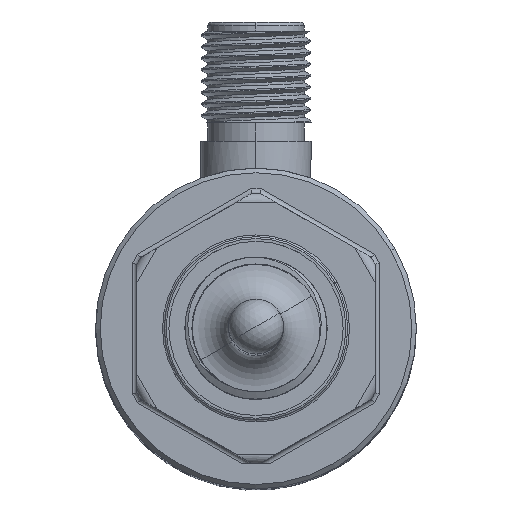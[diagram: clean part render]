
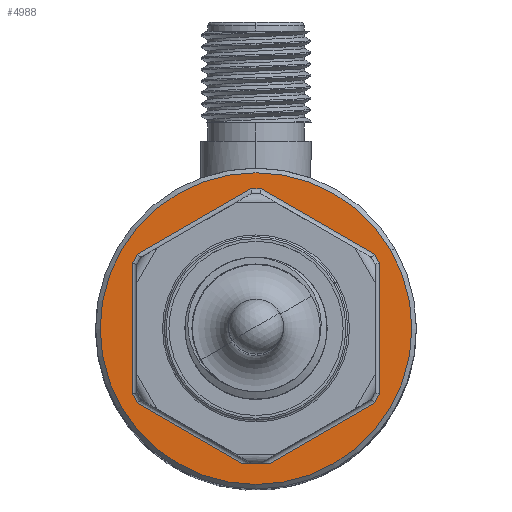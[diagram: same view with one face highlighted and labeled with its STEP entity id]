
A CAD part, top view. The second image highlights one B-rep face of the part: STEP entity #4988.
In plain terms, the highlighted planar face has unit normal (0, 0, 1).
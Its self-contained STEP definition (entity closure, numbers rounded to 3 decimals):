
#114 = EDGE_CURVE ( 'NONE', #8334, #10605, #6618, .T. ) ;
#177 = VERTEX_POINT ( 'NONE', #7463 ) ;
#516 = VERTEX_POINT ( 'NONE', #6600 ) ;
#537 = CARTESIAN_POINT ( 'NONE',  ( 17., 0., 0.5 ) ) ;
#579 = EDGE_CURVE ( 'NONE', #9447, #177, #8510, .T. ) ;
#586 = CARTESIAN_POINT ( 'NONE',  ( 6.134, 13.49, 0.5 ) ) ;
#936 = ORIENTED_EDGE ( 'NONE', *, *, #3543, .T. ) ;
#1044 = VECTOR ( 'NONE', #9015, 1000. ) ;
#1105 = CARTESIAN_POINT ( 'NONE',  ( 0., -13.49, 0.5 ) ) ;
#1208 = DIRECTION ( 'NONE',  ( 1., 0., 0. ) ) ;
#1280 = LINE ( 'NONE', #6848, #11783 ) ;
#1370 = ORIENTED_EDGE ( 'NONE', *, *, #3101, .T. ) ;
#1416 = CARTESIAN_POINT ( 'NONE',  ( -7.625, -13.207, 0.5 ) ) ;
#1447 = DIRECTION ( 'NONE',  ( 1., 0., 0. ) ) ;
#1570 = CARTESIAN_POINT ( 'NONE',  ( -8.116, 12.923, 0.5 ) ) ;
#1617 = VERTEX_POINT ( 'NONE', #9722 ) ;
#1702 = VECTOR ( 'NONE', #9366, 1000. ) ;
#1708 = LINE ( 'NONE', #6090, #1044 ) ;
#1777 = LINE ( 'NONE', #5438, #7381 ) ;
#1812 = CARTESIAN_POINT ( 'NONE',  ( -8.116, -12.923, 0.5 ) ) ;
#1955 = DIRECTION ( 'NONE',  ( -0.866, 0.5, 0. ) ) ;
#2046 = AXIS2_PLACEMENT_3D ( 'NONE', #11305, #3118, #1208 ) ;
#2062 = DIRECTION ( 'NONE',  ( -0.5, 0.866, 0. ) ) ;
#2266 = VECTOR ( 'NONE', #6379, 1000. ) ;
#2275 = CARTESIAN_POINT ( 'NONE',  ( -7.625, 13.207, 0.5 ) ) ;
#2357 = VECTOR ( 'NONE', #6890, 1000. ) ;
#2486 = ORIENTED_EDGE ( 'NONE', *, *, #5555, .T. ) ;
#2513 = VERTEX_POINT ( 'NONE', #3392 ) ;
#2554 = EDGE_CURVE ( 'NONE', #516, #1617, #5324, .T. ) ;
#2844 = AXIS2_PLACEMENT_3D ( 'NONE', #10333, #8778, #11515 ) ;
#3005 = CIRCLE ( 'NONE', #2046, 17. ) ;
#3059 = CARTESIAN_POINT ( 'NONE',  ( 8.616, 12.057, 0.5 ) ) ;
#3101 = EDGE_CURVE ( 'NONE', #3645, #6983, #5306, .T. ) ;
#3116 = LINE ( 'NONE', #10474, #2357 ) ;
#3118 = DIRECTION ( 'NONE',  ( 0., 0., 1. ) ) ;
#3207 = EDGE_CURVE ( 'NONE', #6685, #516, #1280, .T. ) ;
#3244 = CARTESIAN_POINT ( 'NONE',  ( 0., 0., 0.5 ) ) ;
#3337 = ORIENTED_EDGE ( 'NONE', *, *, #7440, .T. ) ;
#3392 = CARTESIAN_POINT ( 'NONE',  ( -15.25, 0.567, 0.5 ) ) ;
#3543 = EDGE_CURVE ( 'NONE', #6983, #3645, #3005, .T. ) ;
#3645 = VERTEX_POINT ( 'NONE', #537 ) ;
#3700 = CARTESIAN_POINT ( 'NONE',  ( 8.116, -12.923, 0.5 ) ) ;
#3897 = VERTEX_POINT ( 'NONE', #10171 ) ;
#4055 = ORIENTED_EDGE ( 'NONE', *, *, #10290, .T. ) ;
#4417 = DIRECTION ( 'NONE',  ( -0.866, 0.5, 0. ) ) ;
#4453 = VERTEX_POINT ( 'NONE', #7227 ) ;
#4537 = CARTESIAN_POINT ( 'NONE',  ( 15.25, 0., 0.5 ) ) ;
#4544 = VECTOR ( 'NONE', #2062, 1000. ) ;
#4855 = VECTOR ( 'NONE', #9530, 1000. ) ;
#4988 = ADVANCED_FACE ( 'NONE', ( #7824, #7651 ), #5131, .T. ) ;
#5131 = PLANE ( 'NONE',  #2844 ) ;
#5138 = ORIENTED_EDGE ( 'NONE', *, *, #7094, .T. ) ;
#5291 = ORIENTED_EDGE ( 'NONE', *, *, #114, .T. ) ;
#5306 = CIRCLE ( 'NONE', #7023, 17. ) ;
#5324 = LINE ( 'NONE', #4537, #8163 ) ;
#5438 = CARTESIAN_POINT ( 'NONE',  ( 7.75, 12.557, 0.5 ) ) ;
#5470 = EDGE_LOOP ( 'NONE', ( #8178, #11786, #6540, #10754, #5138, #10657, #3337, #5291, #8381, #2486, #8932, #4055 ) ) ;
#5555 = EDGE_CURVE ( 'NONE', #2513, #9447, #10018, .T. ) ;
#5768 = CARTESIAN_POINT ( 'NONE',  ( 11.683, -6.745, 0.5 ) ) ;
#6090 = CARTESIAN_POINT ( 'NONE',  ( -15.25, 0., 0.5 ) ) ;
#6249 = EDGE_LOOP ( 'NONE', ( #936, #1370 ) ) ;
#6294 = EDGE_CURVE ( 'NONE', #3897, #4453, #8237, .T. ) ;
#6379 = DIRECTION ( 'NONE',  ( 0.5, 0.866, 0. ) ) ;
#6540 = ORIENTED_EDGE ( 'NONE', *, *, #2554, .T. ) ;
#6600 = CARTESIAN_POINT ( 'NONE',  ( 15.25, 0.567, 0.5 ) ) ;
#6618 = LINE ( 'NONE', #10256, #4544 ) ;
#6663 = DIRECTION ( 'NONE',  ( 0.866, 0.5, 0. ) ) ;
#6685 = VERTEX_POINT ( 'NONE', #3059 ) ;
#6815 = VERTEX_POINT ( 'NONE', #3700 ) ;
#6848 = CARTESIAN_POINT ( 'NONE',  ( 11.683, 6.745, 0.5 ) ) ;
#6890 = DIRECTION ( 'NONE',  ( -0.866, -0.5, 0. ) ) ;
#6983 = VERTEX_POINT ( 'NONE', #10157 ) ;
#7023 = AXIS2_PLACEMENT_3D ( 'NONE', #3244, #7688, #1447 ) ;
#7094 = EDGE_CURVE ( 'NONE', #6815, #3897, #3116, .T. ) ;
#7111 = DIRECTION ( 'NONE',  ( 0., -1., 0. ) ) ;
#7207 = EDGE_CURVE ( 'NONE', #1617, #6815, #11191, .T. ) ;
#7227 = CARTESIAN_POINT ( 'NONE',  ( -7.134, -13.49, 0.5 ) ) ;
#7381 = VECTOR ( 'NONE', #1955, 1000. ) ;
#7440 = EDGE_CURVE ( 'NONE', #4453, #8334, #8913, .T. ) ;
#7463 = CARTESIAN_POINT ( 'NONE',  ( -7.134, 13.49, 0.5 ) ) ;
#7651 = FACE_OUTER_BOUND ( 'NONE', #6249, .T. ) ;
#7688 = DIRECTION ( 'NONE',  ( 0., 0., 1. ) ) ;
#7824 = FACE_BOUND ( 'NONE', #5470, .T. ) ;
#7856 = DIRECTION ( 'NONE',  ( 1., 0., 0. ) ) ;
#7914 = CARTESIAN_POINT ( 'NONE',  ( 0., 13.49, 0.5 ) ) ;
#8163 = VECTOR ( 'NONE', #7111, 1000. ) ;
#8178 = ORIENTED_EDGE ( 'NONE', *, *, #11317, .F. ) ;
#8237 = LINE ( 'NONE', #1105, #1702 ) ;
#8324 = VECTOR ( 'NONE', #7856, 1000. ) ;
#8334 = VERTEX_POINT ( 'NONE', #1812 ) ;
#8381 = ORIENTED_EDGE ( 'NONE', *, *, #9141, .T. ) ;
#8510 = LINE ( 'NONE', #2275, #9883 ) ;
#8778 = DIRECTION ( 'NONE',  ( 0., 0., 1. ) ) ;
#8913 = LINE ( 'NONE', #1416, #10005 ) ;
#8932 = ORIENTED_EDGE ( 'NONE', *, *, #579, .T. ) ;
#9015 = DIRECTION ( 'NONE',  ( 0., 1., 0. ) ) ;
#9141 = EDGE_CURVE ( 'NONE', #10605, #2513, #1708, .T. ) ;
#9333 = CARTESIAN_POINT ( 'NONE',  ( -15.25, -0.567, 0.5 ) ) ;
#9366 = DIRECTION ( 'NONE',  ( -1., 0., 0. ) ) ;
#9447 = VERTEX_POINT ( 'NONE', #1570 ) ;
#9530 = DIRECTION ( 'NONE',  ( -0.5, -0.866, 0. ) ) ;
#9595 = DIRECTION ( 'NONE',  ( 0.5, -0.866, 0. ) ) ;
#9639 = LINE ( 'NONE', #7914, #8324 ) ;
#9722 = CARTESIAN_POINT ( 'NONE',  ( 15.25, -0.567, 0.5 ) ) ;
#9883 = VECTOR ( 'NONE', #6663, 1000. ) ;
#10005 = VECTOR ( 'NONE', #4417, 1000. ) ;
#10018 = LINE ( 'NONE', #11022, #2266 ) ;
#10157 = CARTESIAN_POINT ( 'NONE',  ( -17., 0., 0.5 ) ) ;
#10171 = CARTESIAN_POINT ( 'NONE',  ( 7.134, -13.49, 0.5 ) ) ;
#10256 = CARTESIAN_POINT ( 'NONE',  ( -11.683, -6.745, 0.5 ) ) ;
#10290 = EDGE_CURVE ( 'NONE', #177, #10527, #9639, .T. ) ;
#10333 = CARTESIAN_POINT ( 'NONE',  ( 0., 0., 0.5 ) ) ;
#10474 = CARTESIAN_POINT ( 'NONE',  ( 7.625, -13.207, 0.5 ) ) ;
#10527 = VERTEX_POINT ( 'NONE', #586 ) ;
#10605 = VERTEX_POINT ( 'NONE', #9333 ) ;
#10657 = ORIENTED_EDGE ( 'NONE', *, *, #6294, .T. ) ;
#10754 = ORIENTED_EDGE ( 'NONE', *, *, #7207, .T. ) ;
#11022 = CARTESIAN_POINT ( 'NONE',  ( -11.683, 6.745, 0.5 ) ) ;
#11191 = LINE ( 'NONE', #5768, #4855 ) ;
#11305 = CARTESIAN_POINT ( 'NONE',  ( 0., 0., 0.5 ) ) ;
#11317 = EDGE_CURVE ( 'NONE', #6685, #10527, #1777, .T. ) ;
#11515 = DIRECTION ( 'NONE',  ( 1., 0., 0. ) ) ;
#11783 = VECTOR ( 'NONE', #9595, 1000. ) ;
#11786 = ORIENTED_EDGE ( 'NONE', *, *, #3207, .T. ) ;
